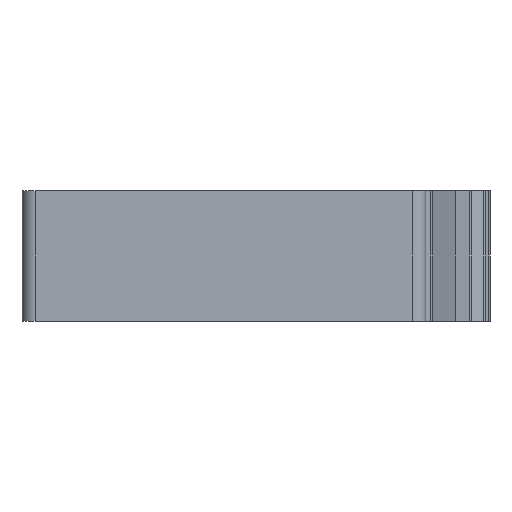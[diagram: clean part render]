
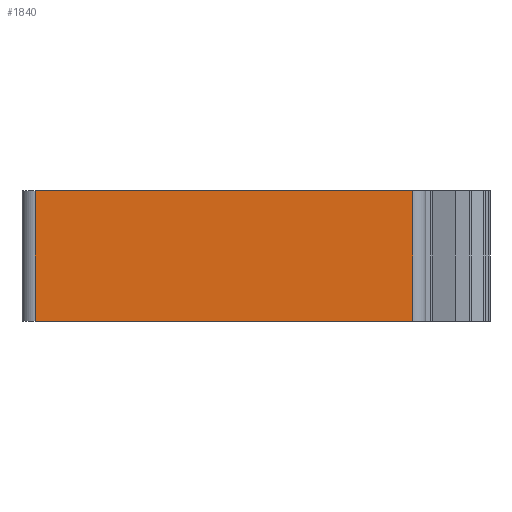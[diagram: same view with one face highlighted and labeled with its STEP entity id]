
A CAD part, front view. The second image highlights one B-rep face of the part: STEP entity #1840.
In plain terms, the highlighted planar face has unit normal (0, -1, 0).
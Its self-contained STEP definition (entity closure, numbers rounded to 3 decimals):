
#44 = PLANE('',#45);
#45 = AXIS2_PLACEMENT_3D('',#46,#47,#48);
#46 = CARTESIAN_POINT('',(0.,0.,22.));
#47 = DIRECTION('',(0.,0.,1.));
#48 = DIRECTION('',(1.,0.,0.));
#72 = CYLINDRICAL_SURFACE('',#73,2.2);
#73 = AXIS2_PLACEMENT_3D('',#74,#75,#76);
#74 = CARTESIAN_POINT('',(2.2,2.2,0.));
#75 = DIRECTION('',(0.,0.,1.));
#76 = DIRECTION('',(-1.,-0.,0.));
#100 = PLANE('',#101);
#101 = AXIS2_PLACEMENT_3D('',#102,#103,#104);
#102 = CARTESIAN_POINT('',(0.,0.,0.));
#103 = DIRECTION('',(0.,0.,1.));
#104 = DIRECTION('',(1.,0.,0.));
#143 = VERTEX_POINT('',#144);
#144 = CARTESIAN_POINT('',(2.2,0.,22.));
#166 = EDGE_CURVE('',#143,#167,#169,.T.);
#167 = VERTEX_POINT('',#168);
#168 = CARTESIAN_POINT('',(65.8,0.,22.));
#169 = SURFACE_CURVE('',#170,(#174,#181),.PCURVE_S1.);
#170 = LINE('',#171,#172);
#171 = CARTESIAN_POINT('',(0.,0.,22.));
#172 = VECTOR('',#173,1.);
#173 = DIRECTION('',(1.,0.,0.));
#174 = PCURVE('',#44,#175);
#175 = DEFINITIONAL_REPRESENTATION('',(#176),#180);
#176 = LINE('',#177,#178);
#177 = CARTESIAN_POINT('',(0.,0.));
#178 = VECTOR('',#179,1.);
#179 = DIRECTION('',(1.,0.));
#180 = ( GEOMETRIC_REPRESENTATION_CONTEXT(2) 
PARAMETRIC_REPRESENTATION_CONTEXT() REPRESENTATION_CONTEXT('2D SPACE',''
  ) );
#181 = PCURVE('',#182,#187);
#182 = PLANE('',#183);
#183 = AXIS2_PLACEMENT_3D('',#184,#185,#186);
#184 = CARTESIAN_POINT('',(0.,0.,0.));
#185 = DIRECTION('',(0.,1.,0.));
#186 = DIRECTION('',(0.,0.,1.));
#187 = DEFINITIONAL_REPRESENTATION('',(#188),#192);
#188 = LINE('',#189,#190);
#189 = CARTESIAN_POINT('',(22.,0.));
#190 = VECTOR('',#191,1.);
#191 = DIRECTION('',(0.,1.));
#192 = ( GEOMETRIC_REPRESENTATION_CONTEXT(2) 
PARAMETRIC_REPRESENTATION_CONTEXT() REPRESENTATION_CONTEXT('2D SPACE',''
  ) );
#215 = CYLINDRICAL_SURFACE('',#216,2.2);
#216 = AXIS2_PLACEMENT_3D('',#217,#218,#219);
#217 = CARTESIAN_POINT('',(65.8,2.2,0.));
#218 = DIRECTION('',(0.,0.,1.));
#219 = DIRECTION('',(1.,0.,-0.));
#1043 = VERTEX_POINT('',#1044);
#1044 = CARTESIAN_POINT('',(2.2,0.,0.));
#1066 = EDGE_CURVE('',#1043,#143,#1067,.T.);
#1067 = SURFACE_CURVE('',#1068,(#1072,#1079),.PCURVE_S1.);
#1068 = LINE('',#1069,#1070);
#1069 = CARTESIAN_POINT('',(2.2,0.,0.));
#1070 = VECTOR('',#1071,1.);
#1071 = DIRECTION('',(0.,0.,1.));
#1072 = PCURVE('',#72,#1073);
#1073 = DEFINITIONAL_REPRESENTATION('',(#1074),#1078);
#1074 = LINE('',#1075,#1076);
#1075 = CARTESIAN_POINT('',(1.571,0.));
#1076 = VECTOR('',#1077,1.);
#1077 = DIRECTION('',(0.,1.));
#1078 = ( GEOMETRIC_REPRESENTATION_CONTEXT(2) 
PARAMETRIC_REPRESENTATION_CONTEXT() REPRESENTATION_CONTEXT('2D SPACE',''
  ) );
#1079 = PCURVE('',#182,#1080);
#1080 = DEFINITIONAL_REPRESENTATION('',(#1081),#1085);
#1081 = LINE('',#1082,#1083);
#1082 = CARTESIAN_POINT('',(0.,2.2));
#1083 = VECTOR('',#1084,1.);
#1084 = DIRECTION('',(1.,0.));
#1085 = ( GEOMETRIC_REPRESENTATION_CONTEXT(2) 
PARAMETRIC_REPRESENTATION_CONTEXT() REPRESENTATION_CONTEXT('2D SPACE',''
  ) );
#1148 = EDGE_CURVE('',#1043,#1149,#1151,.T.);
#1149 = VERTEX_POINT('',#1150);
#1150 = CARTESIAN_POINT('',(65.8,0.,0.));
#1151 = SURFACE_CURVE('',#1152,(#1156,#1163),.PCURVE_S1.);
#1152 = LINE('',#1153,#1154);
#1153 = CARTESIAN_POINT('',(0.,0.,0.));
#1154 = VECTOR('',#1155,1.);
#1155 = DIRECTION('',(1.,0.,0.));
#1156 = PCURVE('',#100,#1157);
#1157 = DEFINITIONAL_REPRESENTATION('',(#1158),#1162);
#1158 = LINE('',#1159,#1160);
#1159 = CARTESIAN_POINT('',(0.,0.));
#1160 = VECTOR('',#1161,1.);
#1161 = DIRECTION('',(1.,0.));
#1162 = ( GEOMETRIC_REPRESENTATION_CONTEXT(2) 
PARAMETRIC_REPRESENTATION_CONTEXT() REPRESENTATION_CONTEXT('2D SPACE',''
  ) );
#1163 = PCURVE('',#182,#1164);
#1164 = DEFINITIONAL_REPRESENTATION('',(#1165),#1169);
#1165 = LINE('',#1166,#1167);
#1166 = CARTESIAN_POINT('',(0.,0.));
#1167 = VECTOR('',#1168,1.);
#1168 = DIRECTION('',(0.,1.));
#1169 = ( GEOMETRIC_REPRESENTATION_CONTEXT(2) 
PARAMETRIC_REPRESENTATION_CONTEXT() REPRESENTATION_CONTEXT('2D SPACE',''
  ) );
#1840 = ADVANCED_FACE('',(#1841),#182,.F.);
#1841 = FACE_BOUND('',#1842,.F.);
#1842 = EDGE_LOOP('',(#1843,#1844,#1845,#1846));
#1843 = ORIENTED_EDGE('',*,*,#1148,.F.);
#1844 = ORIENTED_EDGE('',*,*,#1066,.T.);
#1845 = ORIENTED_EDGE('',*,*,#166,.T.);
#1846 = ORIENTED_EDGE('',*,*,#1847,.F.);
#1847 = EDGE_CURVE('',#1149,#167,#1848,.T.);
#1848 = SURFACE_CURVE('',#1849,(#1853,#1860),.PCURVE_S1.);
#1849 = LINE('',#1850,#1851);
#1850 = CARTESIAN_POINT('',(65.8,0.,0.));
#1851 = VECTOR('',#1852,1.);
#1852 = DIRECTION('',(0.,0.,1.));
#1853 = PCURVE('',#182,#1854);
#1854 = DEFINITIONAL_REPRESENTATION('',(#1855),#1859);
#1855 = LINE('',#1856,#1857);
#1856 = CARTESIAN_POINT('',(0.,65.8));
#1857 = VECTOR('',#1858,1.);
#1858 = DIRECTION('',(1.,0.));
#1859 = ( GEOMETRIC_REPRESENTATION_CONTEXT(2) 
PARAMETRIC_REPRESENTATION_CONTEXT() REPRESENTATION_CONTEXT('2D SPACE',''
  ) );
#1860 = PCURVE('',#215,#1861);
#1861 = DEFINITIONAL_REPRESENTATION('',(#1862),#1866);
#1862 = LINE('',#1863,#1864);
#1863 = CARTESIAN_POINT('',(-1.571,0.));
#1864 = VECTOR('',#1865,1.);
#1865 = DIRECTION('',(-0.,1.));
#1866 = ( GEOMETRIC_REPRESENTATION_CONTEXT(2) 
PARAMETRIC_REPRESENTATION_CONTEXT() REPRESENTATION_CONTEXT('2D SPACE',''
  ) );
